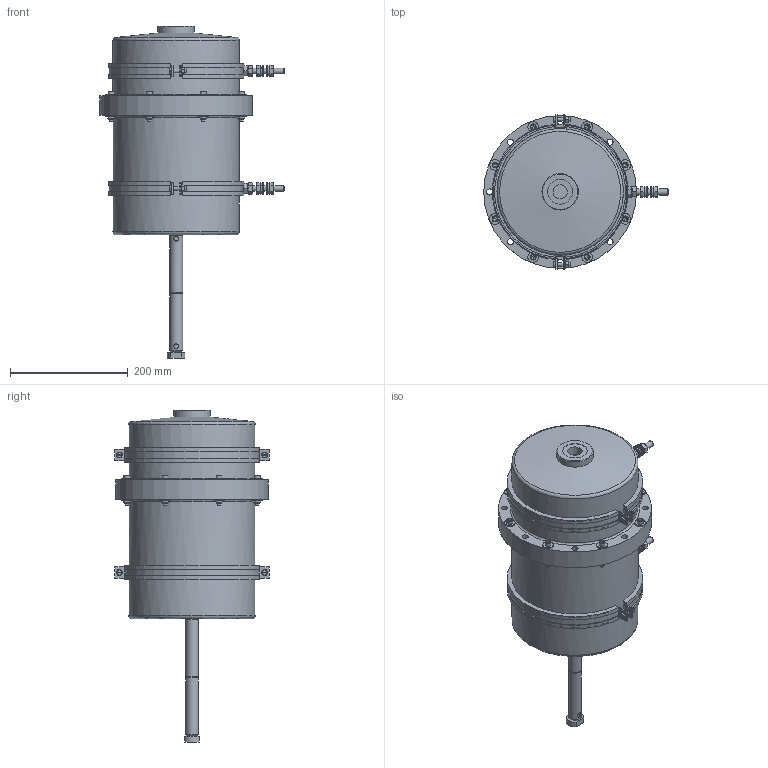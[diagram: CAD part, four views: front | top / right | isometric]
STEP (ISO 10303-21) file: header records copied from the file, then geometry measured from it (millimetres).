
FILE_DESCRIPTION(/* description */ (''),/* implementation_level */ '2;1');
FILE_NAME(/* name */ 'C:\Workspace\Projects\Z. Archive\Hycos\Hyco 6L BL (ME-0159)\Hyco 6.0L BL - ME-0159-0001.stp',/* time_stamp */ '2017-04-14T14:18:39+02:00',/* author */ ('Joost'),/* organization */ (''),/* preprocessor_version */ 'ST-DEVELOPER v15.2',/* originating_system */ 'Autodesk Inventor 2014',/* authorisation */ '');
FILE_SCHEMA (('AUTOMOTIVE_DESIGN { 1 0 10303 214 3 1 1 }'));
Length unit declared in the file: millimetre
Products named in the file (1): ME-0159-0001-Solid
Bounding box: 314 x 262.92 x 565 mm (x, y, z)
Volume: 13162971.7 mm3; surface area: 437624.2 mm2
Topology: 1 solids, 2 shells, 630 faces, 1577 edges, 1019 vertices
Faces by surface type: plane 358, cylinder 169, cone 80, torus 23
Full cylindrical faces by diameter (mm): 4.917 x2, 6 x16, 6.647 x1, 8 x4, 8.9 x8, 10 x14, 10.5 x12, 12 x4, 18 x16, 20 x4, 22 x3, 24.117 x1, 42 x1, 43 x4, 62 x1, 205 x1, 215 x2, 260 x1
Entity records: 18016 total; most frequent: CARTESIAN_POINT 3925, DIRECTION 2736, ORIENTED_EDGE 2648, EDGE_CURVE 1318, AXIS2_PLACEMENT_3D 1121, VERTEX_POINT 948, EDGE_LOOP 942, ADVANCED_FACE 630
